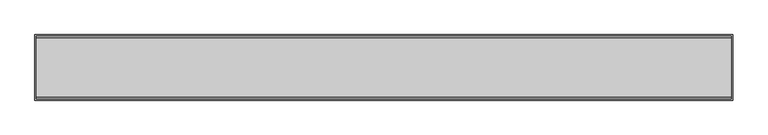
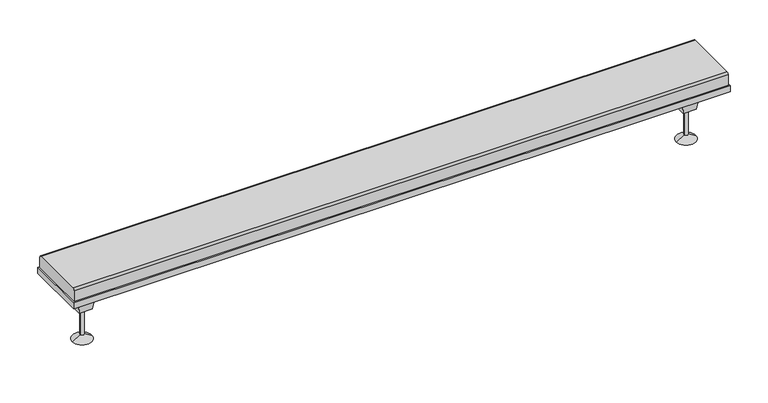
"""IFC4 building model written with IfcOpenShell, lengths in millimetres: sanitary terminal geometry, NLRS_PF_52_UN_Multi Tile in_uitloop_Easydrain : Multi Tile zijuitloop hoog 50mm, zij-ingang 40mm."""

from ifc_helpers import new_model, si_unit, point, frame, frame_2d, origin, place, context, project, spatial, polyline, circle_curve, trimmed, segment, composite_curve, outline, extrude, faceted_brep, source, transform, mapped, element, save
from ifc_brep_helpers import plane_surface, cylinder_surface, revolved_surface, advanced_brep


def sanitary_terminal_d9133679(model_context):
    return source(origin(), model_context, "Body", "SolidModel", [
        advanced_brep(
        [(713.0, 0.0, -70.0), (707.0, 0.0, -70.0), (710.0, 0.0, -70.0), (713.0, 0.0, -112.5), (707.0, 0.0, -112.5), (725.0, 0.0, -120.0), (695.0, 0.0, -120.0), (710.0, 0.0, -120.0)],
        [
            (0, 1, circle_curve(frame((710.0, 0.0, -70.0), z_axis=(0.0, 0.0, 1.0), x_axis=(-1.0, 0.0, 0.0)), 3.0)),
            (1, 2),
            (2, 0),
            (1, 0, circle_curve(frame((710.0, 0.0, -70.0), z_axis=(0.0, 0.0, 1.0), x_axis=(-1.0, 0.0, 0.0)), 3.0)),
            (3, 4, circle_curve(frame((710.0, 0.0, -112.5), z_axis=(0.0, 0.0, 1.0), x_axis=(-1.0, 0.0, 0.0)), 3.0)),
            (4, 1),
            (0, 3),
            (4, 3, circle_curve(frame((710.0, 0.0, -112.5), z_axis=(0.0, 0.0, 1.0), x_axis=(-1.0, 0.0, 0.0)), 3.0)),
            (5, 6, circle_curve(frame((710.0, 0.0, -120.0), z_axis=(0.0, 0.0, 1.0), x_axis=(-1.0, 0.0, 0.0)), 15.0)),
            (6, 4),
            (3, 5),
            (6, 5, circle_curve(frame((710.0, 0.0, -120.0), z_axis=(0.0, 0.0, 1.0), x_axis=(-1.0, 0.0, 0.0)), 15.0)),
            (7, 6),
            (5, 7),
        ],
        [
            plane_surface(frame((710.0, 0.0, -70.0), z_axis=(0.0, 0.0, 1.0), x_axis=(-1.0, 0.0, 0.0))),
            cylinder_surface(frame((710.0, 0.0, -128.1782032), z_axis=(0.0, 0.0, -1.0), x_axis=(-1.0, 0.0, 0.0)), 3.0),
            revolved_surface(polyline([(707.0, 0.0, -112.5), (695.0, 0.0, -120.0)]), (710.0, 0.0, -128.1782032), (0.0, 0.0, -1.0)),
            plane_surface(frame((710.0, 0.0, -120.0), z_axis=(0.0, 0.0, -1.0), x_axis=(-1.0, 0.0, 0.0))),
        ],
        [
            (0, [[1, 2, 3]]),
            (0, [[4, -3, -2]]),
            (1, [[5, 6, -1, 7]]),
            (1, [[8, -7, -4, -6]]),
            (2, [[9, 10, -5, 11]]),
            (2, [[12, -11, -8, -10]]),
            (3, [[13, -9, 14]]),
            (3, [[-14, -12, -13]]),
        ],
    ),
        faceted_brep([(700.0, 10.0, -70.0), (720.0, 10.0, -70.0), (720.0, -10.0, -70.0), (700.0, -10.0, -70.0), (695.0, 15.0, -30.0), (695.0, -15.0, -30.0), (725.0, -15.0, -30.0), (725.0, 15.0, -30.0)], [[[0, 1, 2, 3]], [[4, 5, 6, 7]], [[5, 4, 0, 3]], [[6, 5, 3, 2]], [[7, 6, 2, 1]], [[4, 7, 1, 0]]]),
        advanced_brep(
        [(-207.0, 0.0, -70.0), (-213.0, 0.0, -70.0), (-210.0, 0.0, -70.0), (-207.0, 0.0, -112.5), (-213.0, 0.0, -112.5), (-195.0, 0.0, -120.0), (-225.0, 0.0, -120.0), (-210.0, 0.0, -120.0)],
        [
            (0, 1, circle_curve(frame((-210.0, 0.0, -70.0), z_axis=(0.0, 0.0, 1.0), x_axis=(-1.0, 0.0, 0.0)), 3.0)),
            (1, 2),
            (2, 0),
            (1, 0, circle_curve(frame((-210.0, 0.0, -70.0), z_axis=(0.0, 0.0, 1.0), x_axis=(-1.0, 0.0, 0.0)), 3.0)),
            (3, 4, circle_curve(frame((-210.0, 0.0, -112.5), z_axis=(0.0, 0.0, 1.0), x_axis=(-1.0, 0.0, 0.0)), 3.0)),
            (4, 1),
            (0, 3),
            (4, 3, circle_curve(frame((-210.0, 0.0, -112.5), z_axis=(0.0, 0.0, 1.0), x_axis=(-1.0, 0.0, 0.0)), 3.0)),
            (5, 6, circle_curve(frame((-210.0, 0.0, -120.0), z_axis=(0.0, 0.0, 1.0), x_axis=(-1.0, 0.0, 0.0)), 15.0)),
            (6, 4),
            (3, 5),
            (6, 5, circle_curve(frame((-210.0, 0.0, -120.0), z_axis=(0.0, 0.0, 1.0), x_axis=(-1.0, 0.0, 0.0)), 15.0)),
            (7, 6),
            (5, 7),
        ],
        [
            plane_surface(frame((-210.0, 0.0, -70.0), z_axis=(0.0, 0.0, 1.0), x_axis=(-1.0, 0.0, 0.0))),
            cylinder_surface(frame((-210.0, 0.0, -128.1782032), z_axis=(0.0, 0.0, -1.0), x_axis=(-1.0, 0.0, 0.0)), 3.0),
            revolved_surface(polyline([(-213.0, 0.0, -112.5), (-225.0, 0.0, -120.0)]), (-210.0, 0.0, -128.1782032), (0.0, 0.0, -1.0)),
            plane_surface(frame((-210.0, 0.0, -120.0), z_axis=(0.0, 0.0, -1.0), x_axis=(-1.0, 0.0, 0.0))),
        ],
        [
            (0, [[1, 2, 3]]),
            (0, [[4, -3, -2]]),
            (1, [[5, 6, -1, 7]]),
            (1, [[8, -7, -4, -6]]),
            (2, [[9, 10, -5, 11]]),
            (2, [[12, -11, -8, -10]]),
            (3, [[13, -9, 14]]),
            (3, [[-14, -12, -13]]),
        ],
    ),
        faceted_brep([(-220.0, 10.0, -70.0), (-200.0, 10.0, -70.0), (-200.0, -10.0, -70.0), (-220.0, -10.0, -70.0), (-225.0, 15.0, -30.0), (-225.0, -15.0, -30.0), (-195.0, -15.0, -30.0), (-195.0, 15.0, -30.0)], [[[0, 1, 2, 3]], [[4, 5, 6, 7]], [[5, 4, 0, 3]], [[6, 5, 3, 2]], [[7, 6, 2, 1]], [[4, 7, 1, 0]]]),
        extrude(outline(composite_curve([segment(polyline([(-42.0, 0.0), (42.0, 0.0)]), True, "CONTINUOUS"), segment(trimmed(circle_curve(frame_2d((42.0, -3.0)), 3.0), [point((42.0, 0.0))], [point((45.0, -3.0))], False, "CARTESIAN"), True, "CONTINUOUS"), segment(polyline([(45.0, -3.0), (45.0, -20.0), (-45.0, -20.0), (-45.0, -3.0)]), True, "CONTINUOUS"), segment(trimmed(circle_curve(frame_2d((-42.0, -3.0)), 3.0), [point((-45.0, -3.0))], [point((-42.0, 0.0))], False, "CARTESIAN"), True, "CONTINUOUS")], self_intersect=False)), frame((-248.0, 0.0, 0.0), z_axis=(1.0, 0.0, 0.0), x_axis=(0.0, 1.0, 0.0)), (0.0, 0.0, 1.0), 996.0),
        extrude(outline(polyline([(750.0, -47.0), (-250.0, -47.0), (-250.0, 47.0), (750.0, 47.0), (750.0, -47.0)])), frame((0.0, 0.0, -30.0), z_axis=(0.0, 0.0, 1.0), x_axis=(1.0, 0.0, 0.0)), (0.0, 0.0, 1.0), 10.0),
    ])


if __name__ == "__main__":
    model = new_model("IFC4")
    model_context = context("Model", 3, world=origin())
    ifc_project = project(units=[si_unit("LENGTHUNIT", "METRE", prefix="MILLI")], contexts=[model_context])
    site = spatial("IfcSite", under=ifc_project)
    building = spatial("IfcBuilding", under=site)
    placement = place(None, origin())
    sanitary_terminal_shape = sanitary_terminal_d9133679(model_context)
    element("IfcSanitaryTerminal", 1, ObjectType="NLRS_PF_52_UN_Multi Tile in_uitloop_Easydrain : Multi Tile zijuitloop hoog 50mm, zij-ingang 40mm", at=placement, inside=building, context=model_context, shape_type="MappedRepresentation", body=[
        mapped(sanitary_terminal_shape, transform((0.0, 0.0, 0.0), x_axis=(1.0, 0.0, 0.0), y_axis=(0.0, 1.0, 0.0), z_axis=(0.0, 0.0, 1.0))),
    ])
    save(model, "model.ifc")
